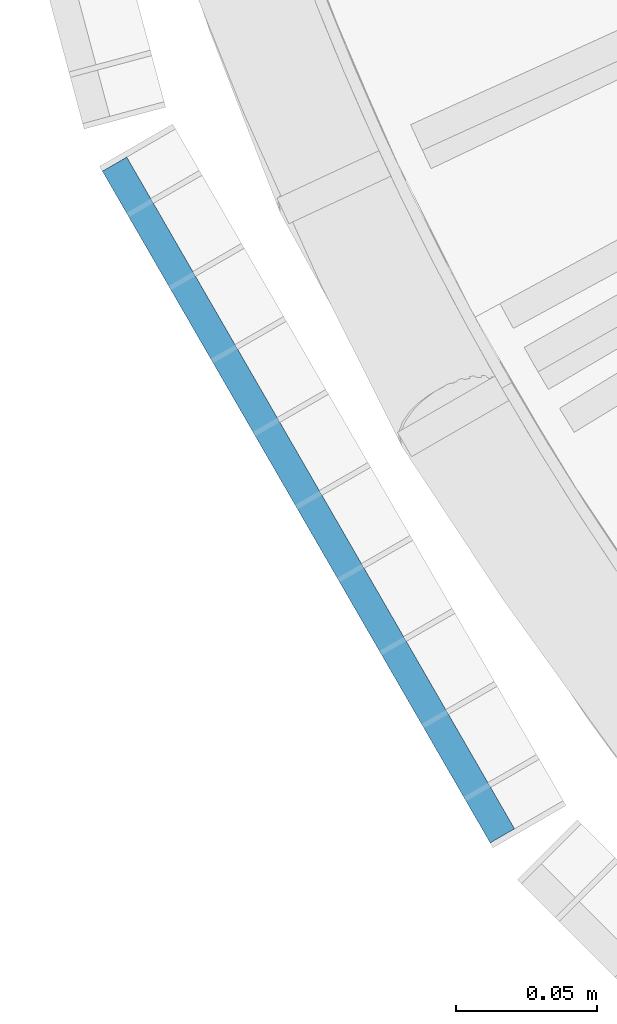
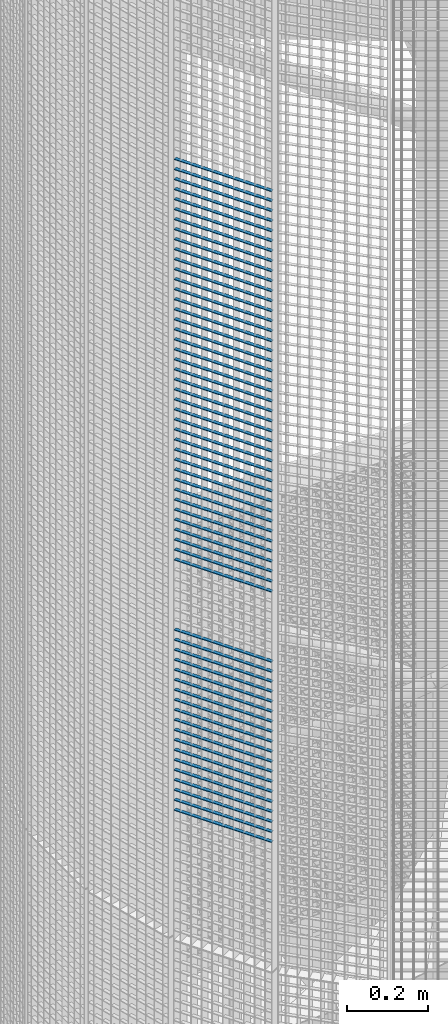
# One storey, part 105 of 1148: 60 beams, 1 element without a shape of its own.
"""IFC2X3 building model written with IfcOpenShell, lengths in millimetres."""

from ifc_helpers import new_model, si_unit, frame, origin_with_axes, origin_2d_with_axis, place, context, subcontext, project, spatial, rectangle, extrude, material, type_object, element, aggregate, save


model = new_model("IFC2X3")

# Units and contexts
model_context = context("Model", 3, precision=1e-05, world=origin_with_axes())
body_context = subcontext(model_context, "Body", "Model", "MODEL_VIEW")
ifc_project = project(units=[si_unit("LENGTHUNIT", "METRE", prefix="MILLI"), si_unit("AREAUNIT", "SQUARE_METRE"), si_unit("VOLUMEUNIT", "CUBIC_METRE"), si_unit("MASSUNIT", "GRAM", prefix="KILO"), si_unit("TIMEUNIT", "SECOND"), si_unit("PLANEANGLEUNIT", "RADIAN"), si_unit("SOLIDANGLEUNIT", "STERADIAN"), si_unit("THERMODYNAMICTEMPERATUREUNIT", "DEGREE_CELSIUS"), si_unit("LUMINOUSINTENSITYUNIT", "LUMEN")], contexts=[model_context])

# Site, building, storey
site_placement = place(None, origin_with_axes())
site = spatial("IfcSite", under=ifc_project, at=site_placement, Name="Undefined", CompositionType="ELEMENT")
building_placement = place(site_placement, origin_with_axes())
building = spatial("IfcBuilding", under=site, at=building_placement, Name="Undefined", CompositionType="ELEMENT")
storey_placement = place(building_placement, origin_with_axes())
storey = spatial("IfcBuildingStorey", under=building, at=storey_placement, Name="Undefined", CompositionType="ELEMENT", Elevation=0.0)

# Assembly, beams
assembly_placement = place(storey_placement, origin_with_axes())
assembly = element("IfcElementAssembly", 1, at=assembly_placement, inside=storey, Name="BORDURE", AssemblyPlace="NOTDEFINED", PredefinedType="NOTDEFINED")
ifc_material = material(Name="STEEL/S235JR")
beam_type = type_object("IfcBeamType", Name="PL2*10", PredefinedType="NOTDEFINED")
beam_1_placement = place(assembly_placement, frame((-1033.29996828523, -437.231955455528, 17340.0), z_axis=(-0.866025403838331, -0.499999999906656, 0.0), x_axis=(0.499999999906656, -0.866025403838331, 0.0)))
beam_1 = element("IfcBeam", 2, at=beam_1_placement, type_object=beam_type, material=ifc_material, Name="ENTRETOISE", context=body_context, shape_type="SweptSolid", body=[
    extrude(rectangle(XDim=2.0, YDim=10.0, at=origin_2d_with_axis()), frame((275.999999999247, 9.09494701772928e-13, 1.53210777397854e-14), z_axis=(-1.0, 0.0, 0.0), x_axis=(0.0, -1.0, 0.0)), (0.0, 0.0, 1.0), 276.0),
])
beam_2_placement = place(assembly_placement, frame((-1033.29996828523, -437.231955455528, 17310.0), z_axis=(-0.866025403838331, -0.499999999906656, 0.0), x_axis=(0.499999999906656, -0.866025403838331, 0.0)))
beam_2 = element("IfcBeam", 3, at=beam_2_placement, type_object=beam_type, material=ifc_material, Name="ENTRETOISE", context=body_context, shape_type="SweptSolid", body=[
    extrude(rectangle(XDim=2.0, YDim=10.0, at=origin_2d_with_axis()), frame((275.999999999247, 9.09494701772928e-13, 1.53210777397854e-14), z_axis=(-1.0, 0.0, 0.0), x_axis=(0.0, -1.0, 0.0)), (0.0, 0.0, 1.0), 276.0),
])
beam_3_placement = place(assembly_placement, frame((-1033.29996828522, -437.231955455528, 17280.0), z_axis=(-0.866025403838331, -0.499999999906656, 0.0), x_axis=(0.499999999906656, -0.866025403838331, 0.0)))
beam_3 = element("IfcBeam", 4, at=beam_3_placement, type_object=beam_type, material=ifc_material, Name="ENTRETOISE", context=body_context, shape_type="SweptSolid", body=[
    extrude(rectangle(XDim=2.0, YDim=10.0, at=origin_2d_with_axis()), frame((275.999999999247, 9.09494701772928e-13, 1.53210777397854e-14), z_axis=(-1.0, 0.0, 0.0), x_axis=(0.0, -1.0, 0.0)), (0.0, 0.0, 1.0), 276.0),
])
beam_4_placement = place(assembly_placement, frame((-1033.29996828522, -437.231955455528, 17250.0), z_axis=(-0.866025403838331, -0.499999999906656, 0.0), x_axis=(0.499999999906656, -0.866025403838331, 0.0)))
beam_4 = element("IfcBeam", 5, at=beam_4_placement, type_object=beam_type, material=ifc_material, Name="ENTRETOISE", context=body_context, shape_type="SweptSolid", body=[
    extrude(rectangle(XDim=2.0, YDim=10.0, at=origin_2d_with_axis()), frame((275.999999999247, 9.09494701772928e-13, 1.53210777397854e-14), z_axis=(-1.0, 0.0, 0.0), x_axis=(0.0, -1.0, 0.0)), (0.0, 0.0, 1.0), 276.0),
])
beam_5_placement = place(assembly_placement, frame((-1033.29996828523, -437.231955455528, 17220.0), z_axis=(-0.866025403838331, -0.499999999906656, 0.0), x_axis=(0.499999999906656, -0.866025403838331, 0.0)))
beam_5 = element("IfcBeam", 6, at=beam_5_placement, type_object=beam_type, material=ifc_material, Name="ENTRETOISE", context=body_context, shape_type="SweptSolid", body=[
    extrude(rectangle(XDim=2.0, YDim=10.0, at=origin_2d_with_axis()), frame((275.999999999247, 9.09494701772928e-13, 1.53210777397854e-14), z_axis=(-1.0, 0.0, 0.0), x_axis=(0.0, -1.0, 0.0)), (0.0, 0.0, 1.0), 276.0),
])
beam_6_placement = place(assembly_placement, frame((-1033.29996828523, -437.231955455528, 17190.0), z_axis=(-0.866025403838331, -0.499999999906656, 0.0), x_axis=(0.499999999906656, -0.866025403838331, 0.0)))
beam_6 = element("IfcBeam", 7, at=beam_6_placement, type_object=beam_type, material=ifc_material, Name="ENTRETOISE", context=body_context, shape_type="SweptSolid", body=[
    extrude(rectangle(XDim=2.0, YDim=10.0, at=origin_2d_with_axis()), frame((275.999999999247, 9.09494701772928e-13, 1.53210777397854e-14), z_axis=(-1.0, 0.0, 0.0), x_axis=(0.0, -1.0, 0.0)), (0.0, 0.0, 1.0), 276.0),
])
beam_7_placement = place(assembly_placement, frame((-1033.29996828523, -437.231955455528, 17160.0), z_axis=(-0.866025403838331, -0.499999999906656, 0.0), x_axis=(0.499999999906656, -0.866025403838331, 0.0)))
beam_7 = element("IfcBeam", 8, at=beam_7_placement, type_object=beam_type, material=ifc_material, Name="ENTRETOISE", context=body_context, shape_type="SweptSolid", body=[
    extrude(rectangle(XDim=2.0, YDim=10.0, at=origin_2d_with_axis()), frame((275.999999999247, 9.09494701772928e-13, 1.53210777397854e-14), z_axis=(-1.0, 0.0, 0.0), x_axis=(0.0, -1.0, 0.0)), (0.0, 0.0, 1.0), 276.0),
])
beam_8_placement = place(assembly_placement, frame((-1033.29996828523, -437.231955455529, 17130.0), z_axis=(-0.866025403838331, -0.499999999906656, 0.0), x_axis=(0.499999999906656, -0.866025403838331, 0.0)))
beam_8 = element("IfcBeam", 9, at=beam_8_placement, type_object=beam_type, material=ifc_material, Name="ENTRETOISE", context=body_context, shape_type="SweptSolid", body=[
    extrude(rectangle(XDim=2.0, YDim=10.0, at=origin_2d_with_axis()), frame((275.999999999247, 9.09494701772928e-13, 1.53210777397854e-14), z_axis=(-1.0, 0.0, 0.0), x_axis=(0.0, -1.0, 0.0)), (0.0, 0.0, 1.0), 276.0),
])
beam_9_placement = place(assembly_placement, frame((-1033.29996828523, -437.231955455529, 17100.0), z_axis=(-0.866025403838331, -0.499999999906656, 0.0), x_axis=(0.499999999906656, -0.866025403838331, 0.0)))
beam_9 = element("IfcBeam", 10, at=beam_9_placement, type_object=beam_type, material=ifc_material, Name="ENTRETOISE", context=body_context, shape_type="SweptSolid", body=[
    extrude(rectangle(XDim=2.0, YDim=10.0, at=origin_2d_with_axis()), frame((275.999999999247, 9.09494701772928e-13, 1.53210777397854e-14), z_axis=(-1.0, 0.0, 0.0), x_axis=(0.0, -1.0, 0.0)), (0.0, 0.0, 1.0), 276.0),
])
beam_10_placement = place(assembly_placement, frame((-1033.29996828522, -437.231955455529, 17070.0), z_axis=(-0.866025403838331, -0.499999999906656, 0.0), x_axis=(0.499999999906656, -0.866025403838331, 0.0)))
beam_10 = element("IfcBeam", 11, at=beam_10_placement, type_object=beam_type, material=ifc_material, Name="ENTRETOISE", context=body_context, shape_type="SweptSolid", body=[
    extrude(rectangle(XDim=2.0, YDim=10.0, at=origin_2d_with_axis()), frame((275.999999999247, 9.09494701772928e-13, 1.53210777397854e-14), z_axis=(-1.0, 0.0, 0.0), x_axis=(0.0, -1.0, 0.0)), (0.0, 0.0, 1.0), 276.0),
])
beam_11_placement = place(assembly_placement, frame((-1033.29996828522, -437.231955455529, 17040.0), z_axis=(-0.866025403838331, -0.499999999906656, 0.0), x_axis=(0.499999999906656, -0.866025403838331, 0.0)))
beam_11 = element("IfcBeam", 12, at=beam_11_placement, type_object=beam_type, material=ifc_material, Name="ENTRETOISE", context=body_context, shape_type="SweptSolid", body=[
    extrude(rectangle(XDim=2.0, YDim=10.0, at=origin_2d_with_axis()), frame((275.999999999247, 9.09494701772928e-13, 1.53210777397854e-14), z_axis=(-1.0, 0.0, 0.0), x_axis=(0.0, -1.0, 0.0)), (0.0, 0.0, 1.0), 276.0),
])
beam_12_placement = place(assembly_placement, frame((-1033.29996828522, -437.231955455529, 17010.0), z_axis=(-0.866025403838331, -0.499999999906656, 0.0), x_axis=(0.499999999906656, -0.866025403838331, 0.0)))
beam_12 = element("IfcBeam", 13, at=beam_12_placement, type_object=beam_type, material=ifc_material, Name="ENTRETOISE", context=body_context, shape_type="SweptSolid", body=[
    extrude(rectangle(XDim=2.0, YDim=10.0, at=origin_2d_with_axis()), frame((275.999999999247, 9.09494701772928e-13, 1.53210777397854e-14), z_axis=(-1.0, 0.0, 0.0), x_axis=(0.0, -1.0, 0.0)), (0.0, 0.0, 1.0), 276.0),
])
beam_13_placement = place(assembly_placement, frame((-1033.29996828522, -437.231955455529, 16980.0), z_axis=(-0.866025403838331, -0.499999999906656, 0.0), x_axis=(0.499999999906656, -0.866025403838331, 0.0)))
beam_13 = element("IfcBeam", 14, at=beam_13_placement, type_object=beam_type, material=ifc_material, Name="ENTRETOISE", context=body_context, shape_type="SweptSolid", body=[
    extrude(rectangle(XDim=2.0, YDim=10.0, at=origin_2d_with_axis()), frame((275.999999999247, 9.09494701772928e-13, 1.53210777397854e-14), z_axis=(-1.0, 0.0, 0.0), x_axis=(0.0, -1.0, 0.0)), (0.0, 0.0, 1.0), 276.0),
])
beam_14_placement = place(assembly_placement, frame((-1033.29996828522, -437.231955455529, 16950.0), z_axis=(-0.866025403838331, -0.499999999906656, 0.0), x_axis=(0.499999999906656, -0.866025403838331, 0.0)))
beam_14 = element("IfcBeam", 15, at=beam_14_placement, type_object=beam_type, material=ifc_material, Name="ENTRETOISE", context=body_context, shape_type="SweptSolid", body=[
    extrude(rectangle(XDim=2.0, YDim=10.0, at=origin_2d_with_axis()), frame((275.999999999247, 9.09494701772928e-13, 1.53210777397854e-14), z_axis=(-1.0, 0.0, 0.0), x_axis=(0.0, -1.0, 0.0)), (0.0, 0.0, 1.0), 276.0),
])
beam_15_placement = place(assembly_placement, frame((-1033.29996828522, -437.231955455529, 16920.0), z_axis=(-0.866025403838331, -0.499999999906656, 0.0), x_axis=(0.499999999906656, -0.866025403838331, 0.0)))
beam_15 = element("IfcBeam", 16, at=beam_15_placement, type_object=beam_type, material=ifc_material, Name="ENTRETOISE", context=body_context, shape_type="SweptSolid", body=[
    extrude(rectangle(XDim=2.0, YDim=10.0, at=origin_2d_with_axis()), frame((275.999999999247, 9.09494701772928e-13, 1.53210777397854e-14), z_axis=(-1.0, 0.0, 0.0), x_axis=(0.0, -1.0, 0.0)), (0.0, 0.0, 1.0), 276.0),
])
beam_16_placement = place(assembly_placement, frame((-1033.29996828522, -437.231955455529, 16890.0), z_axis=(-0.866025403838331, -0.499999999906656, 0.0), x_axis=(0.499999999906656, -0.866025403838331, 0.0)))
beam_16 = element("IfcBeam", 17, at=beam_16_placement, type_object=beam_type, material=ifc_material, Name="ENTRETOISE", context=body_context, shape_type="SweptSolid", body=[
    extrude(rectangle(XDim=2.0, YDim=10.0, at=origin_2d_with_axis()), frame((275.999999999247, 9.09494701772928e-13, 1.53210777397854e-14), z_axis=(-1.0, 0.0, 0.0), x_axis=(0.0, -1.0, 0.0)), (0.0, 0.0, 1.0), 276.0),
])
beam_17_placement = place(assembly_placement, frame((-1033.29996828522, -437.23195545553, 16860.0), z_axis=(-0.866025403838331, -0.499999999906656, 0.0), x_axis=(0.499999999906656, -0.866025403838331, 0.0)))
beam_17 = element("IfcBeam", 18, at=beam_17_placement, type_object=beam_type, material=ifc_material, Name="ENTRETOISE", context=body_context, shape_type="SweptSolid", body=[
    extrude(rectangle(XDim=2.0, YDim=10.0, at=origin_2d_with_axis()), frame((275.999999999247, 9.09494701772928e-13, 1.53210777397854e-14), z_axis=(-1.0, 0.0, 0.0), x_axis=(0.0, -1.0, 0.0)), (0.0, 0.0, 1.0), 276.0),
])
beam_18_placement = place(assembly_placement, frame((-1033.29996828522, -437.23195545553, 16830.0), z_axis=(-0.866025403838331, -0.499999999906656, 0.0), x_axis=(0.499999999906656, -0.866025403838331, 0.0)))
beam_18 = element("IfcBeam", 19, at=beam_18_placement, type_object=beam_type, material=ifc_material, Name="ENTRETOISE", context=body_context, shape_type="SweptSolid", body=[
    extrude(rectangle(XDim=2.0, YDim=10.0, at=origin_2d_with_axis()), frame((275.999999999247, 9.09494701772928e-13, 1.53210777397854e-14), z_axis=(-1.0, 0.0, 0.0), x_axis=(0.0, -1.0, 0.0)), (0.0, 0.0, 1.0), 276.0),
])
beam_19_placement = place(assembly_placement, frame((-1033.29996828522, -437.23195545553, 16800.0), z_axis=(-0.866025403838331, -0.499999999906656, 0.0), x_axis=(0.499999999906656, -0.866025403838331, 0.0)))
beam_19 = element("IfcBeam", 20, at=beam_19_placement, type_object=beam_type, material=ifc_material, Name="ENTRETOISE", context=body_context, shape_type="SweptSolid", body=[
    extrude(rectangle(XDim=2.0, YDim=10.0, at=origin_2d_with_axis()), frame((275.999999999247, 9.09494701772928e-13, 1.53210777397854e-14), z_axis=(-1.0, 0.0, 0.0), x_axis=(0.0, -1.0, 0.0)), (0.0, 0.0, 1.0), 276.0),
])
beam_20_placement = place(assembly_placement, frame((-1033.29996828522, -437.23195545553, 16770.0), z_axis=(-0.866025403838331, -0.499999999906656, 0.0), x_axis=(0.499999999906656, -0.866025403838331, 0.0)))
beam_20 = element("IfcBeam", 21, at=beam_20_placement, type_object=beam_type, material=ifc_material, Name="ENTRETOISE", context=body_context, shape_type="SweptSolid", body=[
    extrude(rectangle(XDim=2.0, YDim=10.0, at=origin_2d_with_axis()), frame((275.999999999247, 9.09494701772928e-13, 1.53210777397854e-14), z_axis=(-1.0, 0.0, 0.0), x_axis=(0.0, -1.0, 0.0)), (0.0, 0.0, 1.0), 276.0),
])
beam_21_placement = place(assembly_placement, frame((-1033.29996828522, -437.23195545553, 16740.0), z_axis=(-0.866025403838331, -0.499999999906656, 0.0), x_axis=(0.499999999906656, -0.866025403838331, 0.0)))
beam_21 = element("IfcBeam", 22, at=beam_21_placement, type_object=beam_type, material=ifc_material, Name="ENTRETOISE", context=body_context, shape_type="SweptSolid", body=[
    extrude(rectangle(XDim=2.0, YDim=10.0, at=origin_2d_with_axis()), frame((275.999999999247, 9.09494701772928e-13, 1.53210777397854e-14), z_axis=(-1.0, 0.0, 0.0), x_axis=(0.0, -1.0, 0.0)), (0.0, 0.0, 1.0), 276.0),
])
beam_22_placement = place(assembly_placement, frame((-1033.29996828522, -437.23195545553, 16710.0), z_axis=(-0.866025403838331, -0.499999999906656, 0.0), x_axis=(0.499999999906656, -0.866025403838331, 0.0)))
beam_22 = element("IfcBeam", 23, at=beam_22_placement, type_object=beam_type, material=ifc_material, Name="ENTRETOISE", context=body_context, shape_type="SweptSolid", body=[
    extrude(rectangle(XDim=2.0, YDim=10.0, at=origin_2d_with_axis()), frame((275.999999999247, 9.09494701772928e-13, 1.53210777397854e-14), z_axis=(-1.0, 0.0, 0.0), x_axis=(0.0, -1.0, 0.0)), (0.0, 0.0, 1.0), 276.0),
])
beam_23_placement = place(assembly_placement, frame((-1033.29996828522, -437.23195545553, 16680.0), z_axis=(-0.866025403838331, -0.499999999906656, 0.0), x_axis=(0.499999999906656, -0.866025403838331, 0.0)))
beam_23 = element("IfcBeam", 24, at=beam_23_placement, type_object=beam_type, material=ifc_material, Name="ENTRETOISE", context=body_context, shape_type="SweptSolid", body=[
    extrude(rectangle(XDim=2.0, YDim=10.0, at=origin_2d_with_axis()), frame((275.999999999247, 9.09494701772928e-13, 1.53210777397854e-14), z_axis=(-1.0, 0.0, 0.0), x_axis=(0.0, -1.0, 0.0)), (0.0, 0.0, 1.0), 276.0),
])
beam_24_placement = place(assembly_placement, frame((-1033.29996828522, -437.23195545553, 16650.0), z_axis=(-0.866025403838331, -0.499999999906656, 0.0), x_axis=(0.499999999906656, -0.866025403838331, 0.0)))
beam_24 = element("IfcBeam", 25, at=beam_24_placement, type_object=beam_type, material=ifc_material, Name="ENTRETOISE", context=body_context, shape_type="SweptSolid", body=[
    extrude(rectangle(XDim=2.0, YDim=10.0, at=origin_2d_with_axis()), frame((275.999999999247, 9.09494701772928e-13, 1.53210777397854e-14), z_axis=(-1.0, 0.0, 0.0), x_axis=(0.0, -1.0, 0.0)), (0.0, 0.0, 1.0), 276.0),
])
beam_25_placement = place(assembly_placement, frame((-1033.29996828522, -437.23195545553, 16620.0), z_axis=(-0.866025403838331, -0.499999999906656, 0.0), x_axis=(0.499999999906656, -0.866025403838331, 0.0)))
beam_25 = element("IfcBeam", 26, at=beam_25_placement, type_object=beam_type, material=ifc_material, Name="ENTRETOISE", context=body_context, shape_type="SweptSolid", body=[
    extrude(rectangle(XDim=2.0, YDim=10.0, at=origin_2d_with_axis()), frame((275.999999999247, 9.09494701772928e-13, 1.53210777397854e-14), z_axis=(-1.0, 0.0, 0.0), x_axis=(0.0, -1.0, 0.0)), (0.0, 0.0, 1.0), 276.0),
])
beam_26_placement = place(assembly_placement, frame((-1033.29996828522, -437.23195545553, 16590.0), z_axis=(-0.866025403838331, -0.499999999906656, 0.0), x_axis=(0.499999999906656, -0.866025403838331, 0.0)))
beam_26 = element("IfcBeam", 27, at=beam_26_placement, type_object=beam_type, material=ifc_material, Name="ENTRETOISE", context=body_context, shape_type="SweptSolid", body=[
    extrude(rectangle(XDim=2.0, YDim=10.0, at=origin_2d_with_axis()), frame((275.999999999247, 9.09494701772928e-13, 1.53210777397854e-14), z_axis=(-1.0, 0.0, 0.0), x_axis=(0.0, -1.0, 0.0)), (0.0, 0.0, 1.0), 276.0),
])
beam_27_placement = place(assembly_placement, frame((-1033.29996828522, -437.23195545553, 16560.0), z_axis=(-0.866025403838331, -0.499999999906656, 0.0), x_axis=(0.499999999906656, -0.866025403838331, 0.0)))
beam_27 = element("IfcBeam", 28, at=beam_27_placement, type_object=beam_type, material=ifc_material, Name="ENTRETOISE", context=body_context, shape_type="SweptSolid", body=[
    extrude(rectangle(XDim=2.0, YDim=10.0, at=origin_2d_with_axis()), frame((275.999999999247, 9.09494701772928e-13, 1.53210777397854e-14), z_axis=(-1.0, 0.0, 0.0), x_axis=(0.0, -1.0, 0.0)), (0.0, 0.0, 1.0), 276.0),
])
beam_28_placement = place(assembly_placement, frame((-1033.29996828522, -437.23195545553, 16530.0), z_axis=(-0.866025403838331, -0.499999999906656, 0.0), x_axis=(0.499999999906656, -0.866025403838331, 0.0)))
beam_28 = element("IfcBeam", 29, at=beam_28_placement, type_object=beam_type, material=ifc_material, Name="ENTRETOISE", context=body_context, shape_type="SweptSolid", body=[
    extrude(rectangle(XDim=2.0, YDim=10.0, at=origin_2d_with_axis()), frame((275.999999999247, 9.09494701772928e-13, 1.53210777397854e-14), z_axis=(-1.0, 0.0, 0.0), x_axis=(0.0, -1.0, 0.0)), (0.0, 0.0, 1.0), 276.0),
])
beam_29_placement = place(assembly_placement, frame((-1033.29996828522, -437.231955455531, 16500.0), z_axis=(-0.866025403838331, -0.499999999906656, 0.0), x_axis=(0.499999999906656, -0.866025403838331, 0.0)))
beam_29 = element("IfcBeam", 30, at=beam_29_placement, type_object=beam_type, material=ifc_material, Name="ENTRETOISE", context=body_context, shape_type="SweptSolid", body=[
    extrude(rectangle(XDim=2.0, YDim=10.0, at=origin_2d_with_axis()), frame((275.999999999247, 9.09494701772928e-13, 1.53210777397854e-14), z_axis=(-1.0, 0.0, 0.0), x_axis=(0.0, -1.0, 0.0)), (0.0, 0.0, 1.0), 276.0),
])
beam_30_placement = place(assembly_placement, frame((-1033.29996828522, -437.231955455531, 16470.0), z_axis=(-0.866025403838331, -0.499999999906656, 0.0), x_axis=(0.499999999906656, -0.866025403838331, 0.0)))
beam_30 = element("IfcBeam", 31, at=beam_30_placement, type_object=beam_type, material=ifc_material, Name="ENTRETOISE", context=body_context, shape_type="SweptSolid", body=[
    extrude(rectangle(XDim=2.0, YDim=10.0, at=origin_2d_with_axis()), frame((275.999999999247, 9.09494701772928e-13, 1.53210777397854e-14), z_axis=(-1.0, 0.0, 0.0), x_axis=(0.0, -1.0, 0.0)), (0.0, 0.0, 1.0), 276.0),
])
beam_31_placement = place(assembly_placement, frame((-1033.29996828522, -437.231955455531, 16440.0), z_axis=(-0.866025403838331, -0.499999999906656, 0.0), x_axis=(0.499999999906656, -0.866025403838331, 0.0)))
beam_31 = element("IfcBeam", 32, at=beam_31_placement, type_object=beam_type, material=ifc_material, Name="ENTRETOISE", context=body_context, shape_type="SweptSolid", body=[
    extrude(rectangle(XDim=2.0, YDim=10.0, at=origin_2d_with_axis()), frame((275.999999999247, 9.09494701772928e-13, 1.53210777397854e-14), z_axis=(-1.0, 0.0, 0.0), x_axis=(0.0, -1.0, 0.0)), (0.0, 0.0, 1.0), 276.0),
])
beam_32_placement = place(assembly_placement, frame((-1033.29996828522, -437.231955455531, 16410.0), z_axis=(-0.866025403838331, -0.499999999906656, 0.0), x_axis=(0.499999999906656, -0.866025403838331, 0.0)))
beam_32 = element("IfcBeam", 33, at=beam_32_placement, type_object=beam_type, material=ifc_material, Name="ENTRETOISE", context=body_context, shape_type="SweptSolid", body=[
    extrude(rectangle(XDim=2.0, YDim=10.0, at=origin_2d_with_axis()), frame((275.999999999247, 9.09494701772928e-13, 1.53210777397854e-14), z_axis=(-1.0, 0.0, 0.0), x_axis=(0.0, -1.0, 0.0)), (0.0, 0.0, 1.0), 276.0),
])
beam_33_placement = place(assembly_placement, frame((-1033.29996828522, -437.231955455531, 16380.0), z_axis=(-0.866025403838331, -0.499999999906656, 0.0), x_axis=(0.499999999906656, -0.866025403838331, 0.0)))
beam_33 = element("IfcBeam", 34, at=beam_33_placement, type_object=beam_type, material=ifc_material, Name="ENTRETOISE", context=body_context, shape_type="SweptSolid", body=[
    extrude(rectangle(XDim=2.0, YDim=10.0, at=origin_2d_with_axis()), frame((275.999999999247, 9.09494701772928e-13, 1.53210777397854e-14), z_axis=(-1.0, 0.0, 0.0), x_axis=(0.0, -1.0, 0.0)), (0.0, 0.0, 1.0), 276.0),
])
beam_34_placement = place(assembly_placement, frame((-1033.29996828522, -437.231955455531, 16350.0), z_axis=(-0.866025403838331, -0.499999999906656, 0.0), x_axis=(0.499999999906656, -0.866025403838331, 0.0)))
beam_34 = element("IfcBeam", 35, at=beam_34_placement, type_object=beam_type, material=ifc_material, Name="ENTRETOISE", context=body_context, shape_type="SweptSolid", body=[
    extrude(rectangle(XDim=2.0, YDim=10.0, at=origin_2d_with_axis()), frame((275.999999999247, 9.09494701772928e-13, 1.53210777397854e-14), z_axis=(-1.0, 0.0, 0.0), x_axis=(0.0, -1.0, 0.0)), (0.0, 0.0, 1.0), 276.0),
])
beam_35_placement = place(assembly_placement, frame((-1033.29996828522, -437.231955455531, 16320.0), z_axis=(-0.866025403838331, -0.499999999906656, 0.0), x_axis=(0.499999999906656, -0.866025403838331, 0.0)))
beam_35 = element("IfcBeam", 36, at=beam_35_placement, type_object=beam_type, material=ifc_material, Name="ENTRETOISE", context=body_context, shape_type="SweptSolid", body=[
    extrude(rectangle(XDim=2.0, YDim=10.0, at=origin_2d_with_axis()), frame((275.999999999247, 9.09494701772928e-13, 1.53210777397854e-14), z_axis=(-1.0, 0.0, 0.0), x_axis=(0.0, -1.0, 0.0)), (0.0, 0.0, 1.0), 276.0),
])
beam_36_placement = place(assembly_placement, frame((-1033.29996828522, -437.231955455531, 16290.0), z_axis=(-0.866025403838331, -0.499999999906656, 0.0), x_axis=(0.499999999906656, -0.866025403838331, 0.0)))
beam_36 = element("IfcBeam", 37, at=beam_36_placement, type_object=beam_type, material=ifc_material, Name="ENTRETOISE", context=body_context, shape_type="SweptSolid", body=[
    extrude(rectangle(XDim=2.0, YDim=10.0, at=origin_2d_with_axis()), frame((275.999999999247, 9.09494701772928e-13, 1.53210777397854e-14), z_axis=(-1.0, 0.0, 0.0), x_axis=(0.0, -1.0, 0.0)), (0.0, 0.0, 1.0), 276.0),
])
beam_37_placement = place(assembly_placement, frame((-1033.29996828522, -437.231955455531, 16260.0), z_axis=(-0.866025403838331, -0.499999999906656, 0.0), x_axis=(0.499999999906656, -0.866025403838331, 0.0)))
beam_37 = element("IfcBeam", 38, at=beam_37_placement, type_object=beam_type, material=ifc_material, Name="ENTRETOISE", context=body_context, shape_type="SweptSolid", body=[
    extrude(rectangle(XDim=2.0, YDim=10.0, at=origin_2d_with_axis()), frame((275.999999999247, 9.09494701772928e-13, 1.53210777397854e-14), z_axis=(-1.0, 0.0, 0.0), x_axis=(0.0, -1.0, 0.0)), (0.0, 0.0, 1.0), 276.0),
])
beam_38_placement = place(assembly_placement, frame((-1033.29996828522, -437.231955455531, 16230.0), z_axis=(-0.866025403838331, -0.499999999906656, 0.0), x_axis=(0.499999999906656, -0.866025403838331, 0.0)))
beam_38 = element("IfcBeam", 39, at=beam_38_placement, type_object=beam_type, material=ifc_material, Name="ENTRETOISE", context=body_context, shape_type="SweptSolid", body=[
    extrude(rectangle(XDim=2.0, YDim=10.0, at=origin_2d_with_axis()), frame((275.999999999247, 9.09494701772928e-13, 1.53210777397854e-14), z_axis=(-1.0, 0.0, 0.0), x_axis=(0.0, -1.0, 0.0)), (0.0, 0.0, 1.0), 276.0),
])
beam_39_placement = place(assembly_placement, frame((-1033.29996828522, -437.231955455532, 16200.0), z_axis=(-0.866025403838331, -0.499999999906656, 0.0), x_axis=(0.499999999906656, -0.866025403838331, 0.0)))
beam_39 = element("IfcBeam", 40, at=beam_39_placement, type_object=beam_type, material=ifc_material, Name="ENTRETOISE", context=body_context, shape_type="SweptSolid", body=[
    extrude(rectangle(XDim=2.0, YDim=10.0, at=origin_2d_with_axis()), frame((275.999999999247, 9.09494701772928e-13, 1.53210777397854e-14), z_axis=(-1.0, 0.0, 0.0), x_axis=(0.0, -1.0, 0.0)), (0.0, 0.0, 1.0), 276.0),
])
beam_40_placement = place(assembly_placement, frame((-1033.29996828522, -437.231955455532, 16170.0), z_axis=(-0.866025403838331, -0.499999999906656, 0.0), x_axis=(0.499999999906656, -0.866025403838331, 0.0)))
beam_40 = element("IfcBeam", 41, at=beam_40_placement, type_object=beam_type, material=ifc_material, Name="ENTRETOISE", context=body_context, shape_type="SweptSolid", body=[
    extrude(rectangle(XDim=2.0, YDim=10.0, at=origin_2d_with_axis()), frame((275.999999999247, 9.09494701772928e-13, 1.53210777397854e-14), z_axis=(-1.0, 0.0, 0.0), x_axis=(0.0, -1.0, 0.0)), (0.0, 0.0, 1.0), 276.0),
])
beam_41_placement = place(assembly_placement, frame((-1033.29996828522, -437.231955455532, 16140.0), z_axis=(-0.866025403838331, -0.499999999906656, 0.0), x_axis=(0.499999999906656, -0.866025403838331, 0.0)))
beam_41 = element("IfcBeam", 42, at=beam_41_placement, type_object=beam_type, material=ifc_material, Name="ENTRETOISE", context=body_context, shape_type="SweptSolid", body=[
    extrude(rectangle(XDim=2.0, YDim=10.0, at=origin_2d_with_axis()), frame((275.999999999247, 9.09494701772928e-13, 1.53210777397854e-14), z_axis=(-1.0, 0.0, 0.0), x_axis=(0.0, -1.0, 0.0)), (0.0, 0.0, 1.0), 276.0),
])
beam_42_placement = place(assembly_placement, frame((-1033.29996828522, -437.231955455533, 15720.0), z_axis=(-0.866025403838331, -0.499999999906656, 0.0), x_axis=(0.499999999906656, -0.866025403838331, 0.0)))
beam_42 = element("IfcBeam", 43, at=beam_42_placement, type_object=beam_type, material=ifc_material, Name="ENTRETOISE", context=body_context, shape_type="SweptSolid", body=[
    extrude(rectangle(XDim=2.0, YDim=10.0, at=origin_2d_with_axis()), frame((275.999999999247, 9.09494701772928e-13, 1.53210777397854e-14), z_axis=(-1.0, 0.0, 0.0), x_axis=(0.0, -1.0, 0.0)), (0.0, 0.0, 1.0), 276.0),
])
beam_43_placement = place(assembly_placement, frame((-1033.29996828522, -437.231955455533, 15690.0), z_axis=(-0.866025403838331, -0.499999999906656, 0.0), x_axis=(0.499999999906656, -0.866025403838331, 0.0)))
beam_43 = element("IfcBeam", 44, at=beam_43_placement, type_object=beam_type, material=ifc_material, Name="ENTRETOISE", context=body_context, shape_type="SweptSolid", body=[
    extrude(rectangle(XDim=2.0, YDim=10.0, at=origin_2d_with_axis()), frame((275.999999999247, 9.09494701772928e-13, 1.53210777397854e-14), z_axis=(-1.0, 0.0, 0.0), x_axis=(0.0, -1.0, 0.0)), (0.0, 0.0, 1.0), 276.0),
])
beam_44_placement = place(assembly_placement, frame((-1033.29996828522, -437.231955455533, 15750.0), z_axis=(-0.866025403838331, -0.499999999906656, 0.0), x_axis=(0.499999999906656, -0.866025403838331, 0.0)))
beam_44 = element("IfcBeam", 45, at=beam_44_placement, type_object=beam_type, material=ifc_material, Name="ENTRETOISE", context=body_context, shape_type="SweptSolid", body=[
    extrude(rectangle(XDim=2.0, YDim=10.0, at=origin_2d_with_axis()), frame((275.999999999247, 9.09494701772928e-13, 1.53210777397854e-14), z_axis=(-1.0, 0.0, 0.0), x_axis=(0.0, -1.0, 0.0)), (0.0, 0.0, 1.0), 276.0),
])
beam_45_placement = place(assembly_placement, frame((-1033.29996828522, -437.231955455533, 15660.0), z_axis=(-0.866025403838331, -0.499999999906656, 0.0), x_axis=(0.499999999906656, -0.866025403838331, 0.0)))
beam_45 = element("IfcBeam", 46, at=beam_45_placement, type_object=beam_type, material=ifc_material, Name="ENTRETOISE", context=body_context, shape_type="SweptSolid", body=[
    extrude(rectangle(XDim=2.0, YDim=10.0, at=origin_2d_with_axis()), frame((275.999999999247, 9.09494701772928e-13, 1.53210777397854e-14), z_axis=(-1.0, 0.0, 0.0), x_axis=(0.0, -1.0, 0.0)), (0.0, 0.0, 1.0), 276.0),
])
beam_46_placement = place(assembly_placement, frame((-1033.29996828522, -437.231955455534, 15630.0), z_axis=(-0.866025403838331, -0.499999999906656, 0.0), x_axis=(0.499999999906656, -0.866025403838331, 0.0)))
beam_46 = element("IfcBeam", 47, at=beam_46_placement, type_object=beam_type, material=ifc_material, Name="ENTRETOISE", context=body_context, shape_type="SweptSolid", body=[
    extrude(rectangle(XDim=2.0, YDim=10.0, at=origin_2d_with_axis()), frame((275.999999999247, 9.09494701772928e-13, 1.53210777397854e-14), z_axis=(-1.0, 0.0, 0.0), x_axis=(0.0, -1.0, 0.0)), (0.0, 0.0, 1.0), 276.0),
])
beam_47_placement = place(assembly_placement, frame((-1033.29996828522, -437.231955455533, 15780.0), z_axis=(-0.866025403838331, -0.499999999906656, 0.0), x_axis=(0.499999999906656, -0.866025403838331, 0.0)))
beam_47 = element("IfcBeam", 48, at=beam_47_placement, type_object=beam_type, material=ifc_material, Name="ENTRETOISE", context=body_context, shape_type="SweptSolid", body=[
    extrude(rectangle(XDim=2.0, YDim=10.0, at=origin_2d_with_axis()), frame((275.999999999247, 9.09494701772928e-13, 1.53210777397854e-14), z_axis=(-1.0, 0.0, 0.0), x_axis=(0.0, -1.0, 0.0)), (0.0, 0.0, 1.0), 276.0),
])
beam_48_placement = place(assembly_placement, frame((-1033.29996828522, -437.231955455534, 15600.0), z_axis=(-0.866025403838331, -0.499999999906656, 0.0), x_axis=(0.499999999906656, -0.866025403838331, 0.0)))
beam_48 = element("IfcBeam", 49, at=beam_48_placement, type_object=beam_type, material=ifc_material, Name="ENTRETOISE", context=body_context, shape_type="SweptSolid", body=[
    extrude(rectangle(XDim=2.0, YDim=10.0, at=origin_2d_with_axis()), frame((275.999999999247, 9.09494701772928e-13, 1.53210777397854e-14), z_axis=(-1.0, 0.0, 0.0), x_axis=(0.0, -1.0, 0.0)), (0.0, 0.0, 1.0), 276.0),
])
beam_49_placement = place(assembly_placement, frame((-1033.29996828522, -437.231955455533, 15810.0), z_axis=(-0.866025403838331, -0.499999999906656, 0.0), x_axis=(0.499999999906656, -0.866025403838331, 0.0)))
beam_49 = element("IfcBeam", 50, at=beam_49_placement, type_object=beam_type, material=ifc_material, Name="ENTRETOISE", context=body_context, shape_type="SweptSolid", body=[
    extrude(rectangle(XDim=2.0, YDim=10.0, at=origin_2d_with_axis()), frame((275.999999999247, 9.09494701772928e-13, 1.53210777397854e-14), z_axis=(-1.0, 0.0, 0.0), x_axis=(0.0, -1.0, 0.0)), (0.0, 0.0, 1.0), 276.0),
])
beam_50_placement = place(assembly_placement, frame((-1033.29996828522, -437.231955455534, 15570.0), z_axis=(-0.866025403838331, -0.499999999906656, 0.0), x_axis=(0.499999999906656, -0.866025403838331, 0.0)))
beam_50 = element("IfcBeam", 51, at=beam_50_placement, type_object=beam_type, material=ifc_material, Name="ENTRETOISE", context=body_context, shape_type="SweptSolid", body=[
    extrude(rectangle(XDim=2.0, YDim=10.0, at=origin_2d_with_axis()), frame((275.999999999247, 9.09494701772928e-13, 1.53210777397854e-14), z_axis=(-1.0, 0.0, 0.0), x_axis=(0.0, -1.0, 0.0)), (0.0, 0.0, 1.0), 276.0),
])
beam_51_placement = place(assembly_placement, frame((-1033.29996828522, -437.231955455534, 15540.0), z_axis=(-0.866025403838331, -0.499999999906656, 0.0), x_axis=(0.499999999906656, -0.866025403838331, 0.0)))
beam_51 = element("IfcBeam", 52, at=beam_51_placement, type_object=beam_type, material=ifc_material, Name="ENTRETOISE", context=body_context, shape_type="SweptSolid", body=[
    extrude(rectangle(XDim=2.0, YDim=10.0, at=origin_2d_with_axis()), frame((275.999999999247, 9.09494701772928e-13, 1.53210777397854e-14), z_axis=(-1.0, 0.0, 0.0), x_axis=(0.0, -1.0, 0.0)), (0.0, 0.0, 1.0), 276.0),
])
beam_52_placement = place(assembly_placement, frame((-1033.29996828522, -437.231955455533, 15840.0), z_axis=(-0.866025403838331, -0.499999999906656, 0.0), x_axis=(0.499999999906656, -0.866025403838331, 0.0)))
beam_52 = element("IfcBeam", 53, at=beam_52_placement, type_object=beam_type, material=ifc_material, Name="ENTRETOISE", context=body_context, shape_type="SweptSolid", body=[
    extrude(rectangle(XDim=2.0, YDim=10.0, at=origin_2d_with_axis()), frame((275.999999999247, 9.09494701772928e-13, 1.53210777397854e-14), z_axis=(-1.0, 0.0, 0.0), x_axis=(0.0, -1.0, 0.0)), (0.0, 0.0, 1.0), 276.0),
])
beam_53_placement = place(assembly_placement, frame((-1033.29996828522, -437.231955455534, 15510.0), z_axis=(-0.866025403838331, -0.499999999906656, 0.0), x_axis=(0.499999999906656, -0.866025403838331, 0.0)))
beam_53 = element("IfcBeam", 54, at=beam_53_placement, type_object=beam_type, material=ifc_material, Name="ENTRETOISE", context=body_context, shape_type="SweptSolid", body=[
    extrude(rectangle(XDim=2.0, YDim=10.0, at=origin_2d_with_axis()), frame((275.999999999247, 9.09494701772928e-13, 1.53210777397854e-14), z_axis=(-1.0, 0.0, 0.0), x_axis=(0.0, -1.0, 0.0)), (0.0, 0.0, 1.0), 276.0),
])
beam_54_placement = place(assembly_placement, frame((-1033.29996828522, -437.231955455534, 15480.0), z_axis=(-0.866025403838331, -0.499999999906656, 0.0), x_axis=(0.499999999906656, -0.866025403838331, 0.0)))
beam_54 = element("IfcBeam", 55, at=beam_54_placement, type_object=beam_type, material=ifc_material, Name="ENTRETOISE", context=body_context, shape_type="SweptSolid", body=[
    extrude(rectangle(XDim=2.0, YDim=10.0, at=origin_2d_with_axis()), frame((275.999999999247, 9.09494701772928e-13, 1.53210777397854e-14), z_axis=(-1.0, 0.0, 0.0), x_axis=(0.0, -1.0, 0.0)), (0.0, 0.0, 1.0), 276.0),
])
beam_55_placement = place(assembly_placement, frame((-1033.29996828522, -437.231955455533, 15870.0), z_axis=(-0.866025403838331, -0.499999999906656, 0.0), x_axis=(0.499999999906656, -0.866025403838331, 0.0)))
beam_55 = element("IfcBeam", 56, at=beam_55_placement, type_object=beam_type, material=ifc_material, Name="ENTRETOISE", context=body_context, shape_type="SweptSolid", body=[
    extrude(rectangle(XDim=2.0, YDim=10.0, at=origin_2d_with_axis()), frame((275.999999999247, 9.09494701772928e-13, 1.53210777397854e-14), z_axis=(-1.0, 0.0, 0.0), x_axis=(0.0, -1.0, 0.0)), (0.0, 0.0, 1.0), 276.0),
])
beam_56_placement = place(assembly_placement, frame((-1033.29996828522, -437.231955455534, 15450.0), z_axis=(-0.866025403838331, -0.499999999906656, 0.0), x_axis=(0.499999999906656, -0.866025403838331, 0.0)))
beam_56 = element("IfcBeam", 57, at=beam_56_placement, type_object=beam_type, material=ifc_material, Name="ENTRETOISE", context=body_context, shape_type="SweptSolid", body=[
    extrude(rectangle(XDim=2.0, YDim=10.0, at=origin_2d_with_axis()), frame((275.999999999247, 9.09494701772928e-13, 1.53210777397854e-14), z_axis=(-1.0, 0.0, 0.0), x_axis=(0.0, -1.0, 0.0)), (0.0, 0.0, 1.0), 276.0),
])
beam_57_placement = place(assembly_placement, frame((-1033.29996828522, -437.231955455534, 15420.0), z_axis=(-0.866025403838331, -0.499999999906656, 0.0), x_axis=(0.499999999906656, -0.866025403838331, 0.0)))
beam_57 = element("IfcBeam", 58, at=beam_57_placement, type_object=beam_type, material=ifc_material, Name="ENTRETOISE", context=body_context, shape_type="SweptSolid", body=[
    extrude(rectangle(XDim=2.0, YDim=10.0, at=origin_2d_with_axis()), frame((275.999999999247, 9.09494701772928e-13, 1.53210777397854e-14), z_axis=(-1.0, 0.0, 0.0), x_axis=(0.0, -1.0, 0.0)), (0.0, 0.0, 1.0), 276.0),
])
beam_58_placement = place(assembly_placement, frame((-1033.29996828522, -437.231955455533, 15900.0), z_axis=(-0.866025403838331, -0.499999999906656, 0.0), x_axis=(0.499999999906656, -0.866025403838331, 0.0)))
beam_58 = element("IfcBeam", 59, at=beam_58_placement, type_object=beam_type, material=ifc_material, Name="ENTRETOISE", context=body_context, shape_type="SweptSolid", body=[
    extrude(rectangle(XDim=2.0, YDim=10.0, at=origin_2d_with_axis()), frame((275.999999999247, 9.09494701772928e-13, 1.53210777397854e-14), z_axis=(-1.0, 0.0, 0.0), x_axis=(0.0, -1.0, 0.0)), (0.0, 0.0, 1.0), 276.0),
])
beam_59_placement = place(assembly_placement, frame((-1033.29996828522, -437.231955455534, 15390.0), z_axis=(-0.866025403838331, -0.499999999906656, 0.0), x_axis=(0.499999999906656, -0.866025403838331, 0.0)))
beam_59 = element("IfcBeam", 60, at=beam_59_placement, type_object=beam_type, material=ifc_material, Name="ENTRETOISE", context=body_context, shape_type="SweptSolid", body=[
    extrude(rectangle(XDim=2.0, YDim=10.0, at=origin_2d_with_axis()), frame((275.999999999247, 9.09494701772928e-13, 1.53210777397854e-14), z_axis=(-1.0, 0.0, 0.0), x_axis=(0.0, -1.0, 0.0)), (0.0, 0.0, 1.0), 276.0),
])
beam_60_placement = place(assembly_placement, frame((-1033.29996828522, -437.231955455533, 15930.0), z_axis=(-0.866025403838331, -0.499999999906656, 0.0), x_axis=(0.499999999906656, -0.866025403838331, 0.0)))
beam_60 = element("IfcBeam", 61, at=beam_60_placement, type_object=beam_type, material=ifc_material, Name="ENTRETOISE", context=body_context, shape_type="SweptSolid", body=[
    extrude(rectangle(XDim=2.0, YDim=10.0, at=origin_2d_with_axis()), frame((275.999999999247, 9.09494701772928e-13, 1.53210777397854e-14), z_axis=(-1.0, 0.0, 0.0), x_axis=(0.0, -1.0, 0.0)), (0.0, 0.0, 1.0), 276.0),
])
aggregate(assembly, [beam_1, beam_2, beam_3, beam_4, beam_5, beam_6, beam_7, beam_8, beam_9, beam_10, beam_11, beam_12, beam_13, beam_14, beam_15, beam_16, beam_17, beam_18, beam_19, beam_20, beam_21, beam_22, beam_23, beam_24, beam_25, beam_26, beam_27, beam_28, beam_29, beam_30, beam_31, beam_32, beam_33, beam_34, beam_35, beam_36, beam_37, beam_38, beam_39, beam_40, beam_41, beam_42, beam_43, beam_44, beam_45, beam_46, beam_47, beam_48, beam_49, beam_50, beam_51, beam_52, beam_53, beam_54, beam_55, beam_56, beam_57, beam_58, beam_59, beam_60])

save(model, "model.ifc")
